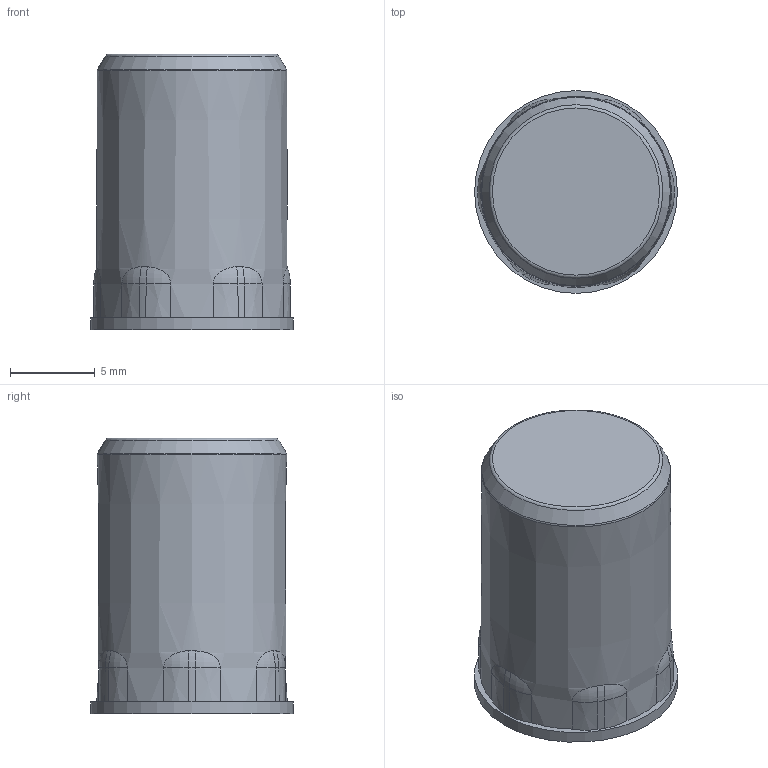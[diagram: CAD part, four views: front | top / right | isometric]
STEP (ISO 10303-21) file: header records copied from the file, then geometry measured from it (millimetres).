
FILE_DESCRIPTION (( 'STEP AP214' ), '1' );
FILE_NAME ('F21404.step', '2024-12-03T16:15:26', ( '' ), ( '' ), 'SwSTEP 2.0', 'SolidWorks 2023', '' );
FILE_SCHEMA (( 'AUTOMOTIVE_DESIGN' ));
Length unit declared in the file: millimetre
Products named in the file (1): F21404
Bounding box: 12 x 12 x 16.3 mm (x, y, z)
Surface area: 1072.2 mm2 (no closed solid volume)
Topology: 0 solids, 2 shells, 51 faces, 125 edges, 78 vertices
Faces by surface type: cone 23, torus 22, plane 4, cylinder 2
Full cylindrical faces by diameter (mm): 9.3 x1, 12 x1
Entity records: 1545 total; most frequent: CARTESIAN_POINT 384, DIRECTION 264, ORIENTED_EDGE 218, AXIS2_PLACEMENT_3D 126, EDGE_CURVE 110, VERTEX_POINT 74, CIRCLE 74, EDGE_LOOP 64
